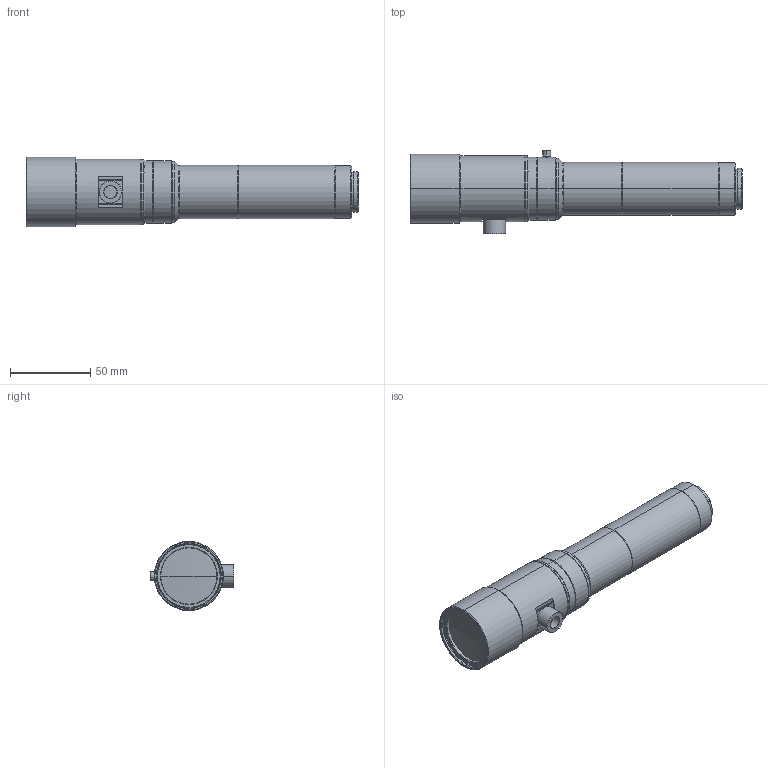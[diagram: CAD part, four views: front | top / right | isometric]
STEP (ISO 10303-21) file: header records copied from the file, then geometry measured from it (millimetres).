
FILE_DESCRIPTION (( 'STEP AP214' ), '1' );
FILE_NAME ('VS-THV2-80CO.STEP', '2018-05-21T05:21:18', ( '' ), ( '' ), 'SwSTEP 2.0', 'SolidWorks 2018', '' );
FILE_SCHEMA (( 'AUTOMOTIVE_DESIGN' ));
Length unit declared in the file: millimetre
Products named in the file (1): VS-THV2-80CO
Bounding box: 206.47 x 52.05 x 43 mm (x, y, z)
Volume: 213978.9 mm3; surface area: 28433.1 mm2
Topology: 1 solids, 1 shells, 142 faces, 290 edges, 167 vertices
Faces by surface type: cone 66, cylinder 42, plane 32, sphere 2
Entity records: 3760 total; most frequent: DIRECTION 722, CARTESIAN_POINT 632, ORIENTED_EDGE 580, AXIS2_PLACEMENT_3D 291, EDGE_CURVE 290, VERTEX_POINT 167, EDGE_LOOP 163, CIRCLE 148
